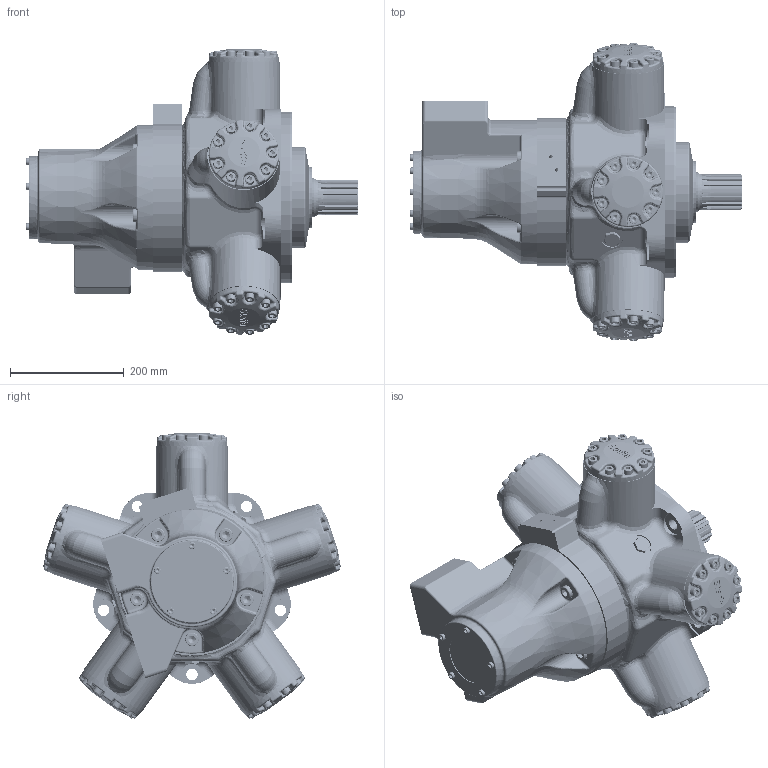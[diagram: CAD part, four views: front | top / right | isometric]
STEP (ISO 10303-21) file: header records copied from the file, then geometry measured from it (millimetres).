
FILE_DESCRIPTION((''),'2;1');
FILE_NAME('I:\3D Step files\Approved for WEB\Staffa\HMC080 S FM4 X 70.stp','2013-04-25T16:04:03',('mnorman'),(''),'Autodesk Inventor 2013','Autodesk Inventor 2013','');
FILE_SCHEMA(('AUTOMOTIVE_DESIGN { 1 0 10303 214 1 1 1 1 }'));
Length unit declared in the file: millimetre
Products named in the file (1): Part1
Bounding box: 583.65 x 524.38 x 502.41 mm (x, y, z)
Volume: 624332.6 mm3; surface area: 1797887.7 mm2
Topology: 130 solids, 131 shells, 4568 faces, 10850 edges, 6528 vertices
Faces by surface type: plane 1548, cylinder 956, bspline 843, torus 628, cone 371, sphere 222
Full cylindrical faces by diameter (mm): 3 x2, 6 x2, 7.938 x6, 8.334 x5, 8.382 x57, 10 x55, 10.5 x45, 10.8 x10, 11.328 x1, 11.913 x5, 12.7 x6, 13.843 x8, 14.351 x5, 15.875 x5, 16 x55, 16.272 x5, 16.5 x45, 16.51 x1, 16.7 x5, 17 x10, 19.05 x3, 20 x5, 22.2 x5, 22.225 x10, 23.825 x5, 25 x5, 25.4 x5, 27.68 x5, 28.575 x5, 28.677 x5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
Entity records: 154224 total; most frequent: CARTESIAN_POINT 56974, ORIENTED_EDGE 18488, DIRECTION 18318, EDGE_CURVE 9244, AXIS2_PLACEMENT_3D 7674, VERTEX_POINT 5986, EDGE_LOOP 5872, FACE_OUTER_BOUND 4567
